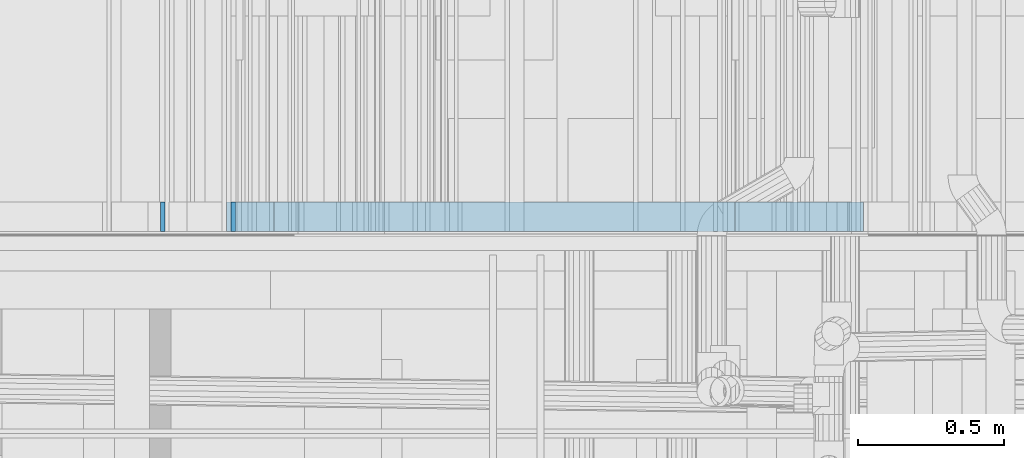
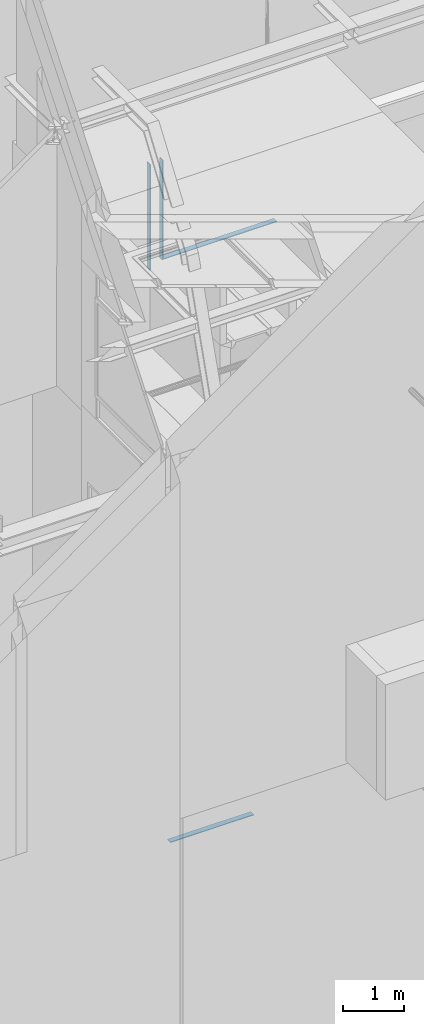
# One storey, part 42 of 583: 4 building element parts, 3 elements without a shape of their own.
"""IFC2X3 building model written with IfcOpenShell, lengths in metres."""

from ifc_helpers import new_model, entity, si_unit, converted_unit, derived_unit, money_unit, direction, frame, frame_2d, origin_with_axes, place, context, subcontext, project, spatial, polyline, rectangle, outline, extrude, material, type_object, element, aggregate, save


model = new_model("IFC2X3")

# Units and contexts
model_context = context("Model", 3, precision=1e-05, world=origin_with_axes(), true_north=direction((0.0, 1.0)))
body_context = subcontext(model_context, "Body", "Model", "MODEL_VIEW", scale=1.0)
ifc_project = project(units=[si_unit("LENGTHUNIT", "METRE"), si_unit("AREAUNIT", "SQUARE_METRE"), si_unit("VOLUMEUNIT", "CUBIC_METRE"), si_unit("ABSORBEDDOSEUNIT", "GRAY"), si_unit("AMOUNTOFSUBSTANCEUNIT", "MOLE"), si_unit("DOSEEQUIVALENTUNIT", "SIEVERT"), si_unit("ELECTRICCAPACITANCEUNIT", "FARAD"), si_unit("ELECTRICCHARGEUNIT", "COULOMB"), si_unit("ELECTRICCONDUCTANCEUNIT", "SIEMENS"), si_unit("ELECTRICCURRENTUNIT", "AMPERE"), si_unit("ELECTRICRESISTANCEUNIT", "OHM"), si_unit("ELECTRICVOLTAGEUNIT", "VOLT"), si_unit("ENERGYUNIT", "JOULE"), si_unit("FORCEUNIT", "NEWTON"), si_unit("FREQUENCYUNIT", "HERTZ"), si_unit("ILLUMINANCEUNIT", "LUX"), si_unit("INDUCTANCEUNIT", "HENRY"), si_unit("LUMINOUSFLUXUNIT", "LUMEN"), si_unit("LUMINOUSINTENSITYUNIT", "CANDELA"), si_unit("MAGNETICFLUXDENSITYUNIT", "TESLA"), si_unit("MAGNETICFLUXUNIT", "WEBER"), si_unit("MASSUNIT", "GRAM"), converted_unit("PLANEANGLEUNIT", "degree", entity("IfcReal", 0.0174532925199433), si_unit("PLANEANGLEUNIT", "RADIAN"), dimensions=[0, 0, 0, 0, 0, 0, 0]), si_unit("POWERUNIT", "WATT"), si_unit("PRESSUREUNIT", "PASCAL"), si_unit("RADIOACTIVITYUNIT", "BECQUEREL"), si_unit("SOLIDANGLEUNIT", "STERADIAN"), si_unit("THERMODYNAMICTEMPERATUREUNIT", "KELVIN"), si_unit("TIMEUNIT", "SECOND"), derived_unit("ACCELERATIONUNIT", [(si_unit("LENGTHUNIT", "METRE"), 1), (si_unit("TIMEUNIT", "SECOND"), -2)]), derived_unit("ANGULARVELOCITYUNIT", [(converted_unit("PLANEANGLEUNIT", "degree", entity("IfcReal", 0.0174532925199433), si_unit("PLANEANGLEUNIT", "RADIAN"), dimensions=[0, 0, 0, 0, 0, 0, 0]), 1), (si_unit("TIMEUNIT", "SECOND"), -1)]), derived_unit("CURVATUREUNIT", [(converted_unit("PLANEANGLEUNIT", "degree", entity("IfcReal", 0.0174532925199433), si_unit("PLANEANGLEUNIT", "RADIAN"), dimensions=[0, 0, 0, 0, 0, 0, 0]), 1), (si_unit("LENGTHUNIT", "METRE"), -1)]), derived_unit("DYNAMICVISCOSITYUNIT", [(si_unit("PRESSUREUNIT", "PASCAL"), 1), (si_unit("TIMEUNIT", "SECOND"), 1)]), derived_unit("HEATFLUXDENSITYUNIT", [(si_unit("POWERUNIT", "WATT"), 1), (si_unit("LENGTHUNIT", "METRE"), -2)]), derived_unit("HEATINGVALUEUNIT", [(si_unit("ENERGYUNIT", "JOULE"), 1), (si_unit("MASSUNIT", "GRAM"), -1)]), derived_unit("INTEGERCOUNTRATEUNIT", [(si_unit("TIMEUNIT", "SECOND"), -1)]), derived_unit("IONCONCENTRATIONUNIT", [(si_unit("MASSUNIT", "GRAM"), 1), (si_unit("VOLUMEUNIT", "CUBIC_METRE"), -1)]), derived_unit("ISOTHERMALMOISTURECAPACITYUNIT", [(si_unit("VOLUMEUNIT", "CUBIC_METRE"), 1), (si_unit("MASSUNIT", "GRAM"), -1)]), derived_unit("KINEMATICVISCOSITYUNIT", [(si_unit("AREAUNIT", "SQUARE_METRE"), 1), (si_unit("TIMEUNIT", "SECOND"), -1)]), derived_unit("LINEARFORCEUNIT", [(si_unit("FORCEUNIT", "NEWTON"), 1), (si_unit("LENGTHUNIT", "METRE"), -1)]), derived_unit("LINEARMOMENTUNIT", [(si_unit("FORCEUNIT", "NEWTON"), 1), (si_unit("LENGTHUNIT", "METRE"), -1)]), derived_unit("LINEARSTIFFNESSUNIT", [(si_unit("FORCEUNIT", "NEWTON"), 1), (si_unit("LENGTHUNIT", "METRE"), -1)]), derived_unit("LINEARVELOCITYUNIT", [(si_unit("LENGTHUNIT", "METRE"), 1), (si_unit("TIMEUNIT", "SECOND"), -1)]), derived_unit("LUMINOUSINTENSITYDISTRIBUTIONUNIT", [(si_unit("LUMINOUSINTENSITYUNIT", "CANDELA"), 1), (si_unit("LUMINOUSFLUXUNIT", "LUMEN"), -1)]), derived_unit("MASSDENSITYUNIT", [(si_unit("MASSUNIT", "GRAM"), 1), (si_unit("VOLUMEUNIT", "CUBIC_METRE"), -1)]), derived_unit("MASSFLOWRATEUNIT", [(si_unit("MASSUNIT", "GRAM"), 1), (si_unit("TIMEUNIT", "SECOND"), -1)]), derived_unit("MASSPERLENGTHUNIT", [(si_unit("MASSUNIT", "GRAM"), 1), (si_unit("LENGTHUNIT", "METRE"), -1)]), derived_unit("MODULUSOFELASTICITYUNIT", [(si_unit("FORCEUNIT", "NEWTON"), 1), (si_unit("AREAUNIT", "SQUARE_METRE"), -1)]), derived_unit("MODULUSOFLINEARSUBGRADEREACTIONUNIT", [(si_unit("FORCEUNIT", "NEWTON"), 1), (si_unit("LENGTHUNIT", "METRE"), -2)]), derived_unit("MODULUSOFROTATIONALSUBGRADEREACTIONUNIT", [(si_unit("FORCEUNIT", "NEWTON"), 1), (si_unit("LENGTHUNIT", "METRE"), 1)]), derived_unit("MODULUSOFSUBGRADEREACTIONUNIT", [(si_unit("FORCEUNIT", "NEWTON"), 1), (si_unit("VOLUMEUNIT", "CUBIC_METRE"), -1)]), derived_unit("MOISTUREDIFFUSIVITYUNIT", [(si_unit("VOLUMEUNIT", "CUBIC_METRE"), 1), (si_unit("TIMEUNIT", "SECOND"), -1)]), derived_unit("MOLECULARWEIGHTUNIT", [(si_unit("MASSUNIT", "GRAM"), 1), (si_unit("AMOUNTOFSUBSTANCEUNIT", "MOLE"), -1)]), derived_unit("PLANARFORCEUNIT", [(si_unit("FORCEUNIT", "NEWTON"), 1), (si_unit("LENGTHUNIT", "METRE"), -2)]), derived_unit("ROTATIONALFREQUENCYUNIT", [(si_unit("TIMEUNIT", "SECOND"), -1)]), derived_unit("ROTATIONALMASSUNIT", [(si_unit("MASSUNIT", "GRAM"), 1), (si_unit("LENGTHUNIT", "METRE"), 2)]), derived_unit("ROTATIONALSTIFFNESSUNIT", [(si_unit("FORCEUNIT", "NEWTON"), 1), (si_unit("LENGTHUNIT", "METRE"), 1), (converted_unit("PLANEANGLEUNIT", "degree", entity("IfcReal", 0.0174532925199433), si_unit("PLANEANGLEUNIT", "RADIAN"), dimensions=[0, 0, 0, 0, 0, 0, 0]), -1)]), derived_unit("SECTIONAREAINTEGRALUNIT", [(si_unit("LENGTHUNIT", "METRE"), 5)]), derived_unit("SECTIONMODULUSUNIT", [(si_unit("LENGTHUNIT", "METRE"), 3)]), derived_unit("SHEARMODULUSUNIT", [(si_unit("FORCEUNIT", "NEWTON"), 1), (si_unit("AREAUNIT", "SQUARE_METRE"), -1)]), derived_unit("SOUNDPOWERUNIT", [(si_unit("ENERGYUNIT", "JOULE"), 1), (si_unit("TIMEUNIT", "SECOND"), -1)]), derived_unit("SPECIFICHEATCAPACITYUNIT", [(si_unit("FORCEUNIT", "NEWTON"), 1), (si_unit("MASSUNIT", "GRAM"), -1), (si_unit("THERMODYNAMICTEMPERATUREUNIT", "KELVIN"), -1)]), derived_unit("TEMPERATUREGRADIENTUNIT", [(si_unit("THERMODYNAMICTEMPERATUREUNIT", "KELVIN"), 1), (si_unit("LENGTHUNIT", "METRE"), -1)]), derived_unit("THERMALADMITTANCEUNIT", [(si_unit("POWERUNIT", "WATT"), 1), (si_unit("AREAUNIT", "SQUARE_METRE"), -1), (si_unit("THERMODYNAMICTEMPERATUREUNIT", "KELVIN"), -1)]), derived_unit("THERMALCONDUCTANCEUNIT", [(si_unit("POWERUNIT", "WATT"), 1), (si_unit("LENGTHUNIT", "METRE"), -1), (si_unit("THERMODYNAMICTEMPERATUREUNIT", "KELVIN"), -1)]), derived_unit("THERMALEXPANSIONCOEFFICIENTUNIT", [(si_unit("THERMODYNAMICTEMPERATUREUNIT", "KELVIN"), -1)]), derived_unit("THERMALRESISTANCEUNIT", [(si_unit("AREAUNIT", "SQUARE_METRE"), 1), (si_unit("POWERUNIT", "WATT"), -1)]), derived_unit("THERMALTRANSMITTANCEUNIT", [(si_unit("POWERUNIT", "WATT"), 1), (si_unit("AREAUNIT", "SQUARE_METRE"), -1), (si_unit("THERMODYNAMICTEMPERATUREUNIT", "KELVIN"), -1)]), derived_unit("TORQUEUNIT", [(si_unit("FORCEUNIT", "NEWTON"), 1), (si_unit("LENGTHUNIT", "METRE"), 1)]), derived_unit("VAPORPERMEABILITYUNIT", [(si_unit("MASSUNIT", "GRAM"), 1), (si_unit("TIMEUNIT", "SECOND"), -1)]), derived_unit("VOLUMETRICFLOWRATEUNIT", [(si_unit("VOLUMEUNIT", "CUBIC_METRE"), 1), (si_unit("TIMEUNIT", "SECOND"), -1)]), derived_unit("WARPINGCONSTANTUNIT", [(si_unit("LENGTHUNIT", "METRE"), 6)]), derived_unit("WARPINGMOMENTUNIT", [(si_unit("FORCEUNIT", "NEWTON"), 1), (si_unit("LENGTHUNIT", "METRE"), 2)]), money_unit("GBP")], contexts=[model_context])

# Site, building, storey
site_placement = place(None, origin_with_axes())
site = spatial("IfcSite", under=ifc_project, at=site_placement, Name="Site", CompositionType="ELEMENT")
building_placement = place(site_placement, origin_with_axes())
building = spatial("IfcBuilding", under=site, at=building_placement, Name="Building01", CompositionType="ELEMENT")
storey_placement = place(building_placement, frame((0.0, 0.0, 20.78), z_axis=(0.0, 0.0, 1.0), x_axis=(1.0, 0.0, 0.0)))
storey = spatial("IfcBuildingStorey", under=building, at=storey_placement, Name="RL", CompositionType="ELEMENT", Elevation=20.78)

# Wall, building element part
wall_type_1 = type_object("IfcWallType", Name="SHE_A-Walls_Type05a_Partition_95mm_tall", PredefinedType="NOTDEFINED")
wall_1_placement = place(storey_placement, frame((6.571475, 5.15, -16.57427), z_axis=(0.0, 1.0, 0.0), x_axis=(1.0, 0.0, 0.0)))
wall_1 = element("IfcWall", 1, at=wall_1_placement, inside=storey, type_object=wall_type_1, Name="5A", ObjectType="SHE_A-Walls_Type05a_Partition_95mm_tall")
ifc_material = material(Name="A_BSUK_Walls_Timber")
building_element_part_1_placement = place(wall_1_placement, origin_with_axes())
building_element_part_1 = element("IfcBuildingElementPart", 2, at=building_element_part_1_placement, material=ifc_material, Name="2", context=body_context, shape_type="SweptSolid", body=[
    extrude(rectangle(XDim=1.574195, YDim=0.015, at=frame_2d((0.837097, 0.0675), x_axis=(-1.0, 0.0))), frame((0.0, 0.0, 0.015), z_axis=(0.0, 0.0, 1.0), x_axis=(1.0, 0.0, 0.0)), (0.0, 0.0, 1.0), 0.1),
])
aggregate(wall_1, [building_element_part_1])

# Wall, building element parts
wall_type_2 = type_object("IfcWallType", Name="SHE_A-Walls_Type01c_Partywall_225mm_twin_tall", PredefinedType="NOTDEFINED")
wall_2_placement = place(storey_placement, frame((6.337, 5.15, -2.95), z_axis=(0.0, 1.0, 0.0), x_axis=(0.0, 0.0, -1.0)))
wall_2 = element("IfcWall", 3, at=wall_2_placement, inside=storey, type_object=wall_type_2, Name="1C", ObjectType="SHE_A-Walls_Type01c_Partywall_225mm_twin_tall")
placement = place(wall_2_placement, origin_with_axes())
building_element_part_2 = element("IfcBuildingElementPart", 4, at=placement, material=ifc_material, Name="2", context=body_context, shape_type="SweptSolid", body=[
    extrude(rectangle(XDim=2.115, YDim=0.015, at=frame_2d((1.0725, 0.0945), x_axis=(-1.0, 0.0))), frame((0.0, 0.0, 0.015), z_axis=(0.0, 0.0, 1.0), x_axis=(1.0, 0.0, 0.0)), (0.0, 0.0, 1.0), 0.1),
])
building_element_part_3 = element("IfcBuildingElementPart", 5, at=placement, material=ifc_material, Name="7", context=body_context, shape_type="SweptSolid", body=[
    extrude(rectangle(XDim=1.97, YDim=0.015, at=frame_2d((1.0, -0.1455), x_axis=(-1.0, 0.0))), frame((0.0, 0.0, 0.015), z_axis=(0.0, 0.0, 1.0), x_axis=(1.0, 0.0, 0.0)), (0.0, 0.0, 1.0), 0.1),
])
aggregate(wall_2, [building_element_part_2, building_element_part_3])

# Wall, building element part
wall_type_3 = type_object("IfcWallType", Name="SHE_A-Walls_Type04a_BlockworkWall_130mm", PredefinedType="NOTDEFINED")
wall_3_placement = place(storey_placement, frame((8.665, 5.15, -5.065), z_axis=(0.0, 1.0, 0.0), x_axis=(-1.0, 0.0, 0.0)))
wall_3 = element("IfcWall", 6, at=wall_3_placement, inside=storey, type_object=wall_type_3, Name="4A", ObjectType="SHE_A-Walls_Type04a_BlockworkWall_130mm")
building_element_part_4_placement = place(wall_3_placement, origin_with_axes())
building_element_part_4 = element("IfcBuildingElementPart", 7, at=building_element_part_4_placement, material=ifc_material, Name="2", context=body_context, shape_type="SweptSolid", body=[
    extrude(outline(polyline([(2.19, 0.13), (0.03, 0.13), (0.03, 0.115), (2.205, 0.115), (2.19, 0.13)])), frame((0.0, 0.0, 0.015), z_axis=(0.0, 0.0, 1.0), x_axis=(1.0, 0.0, 0.0)), (0.0, 0.0, 1.0), 0.1),
])
aggregate(wall_3, [building_element_part_4])

save(model, "model.ifc")
